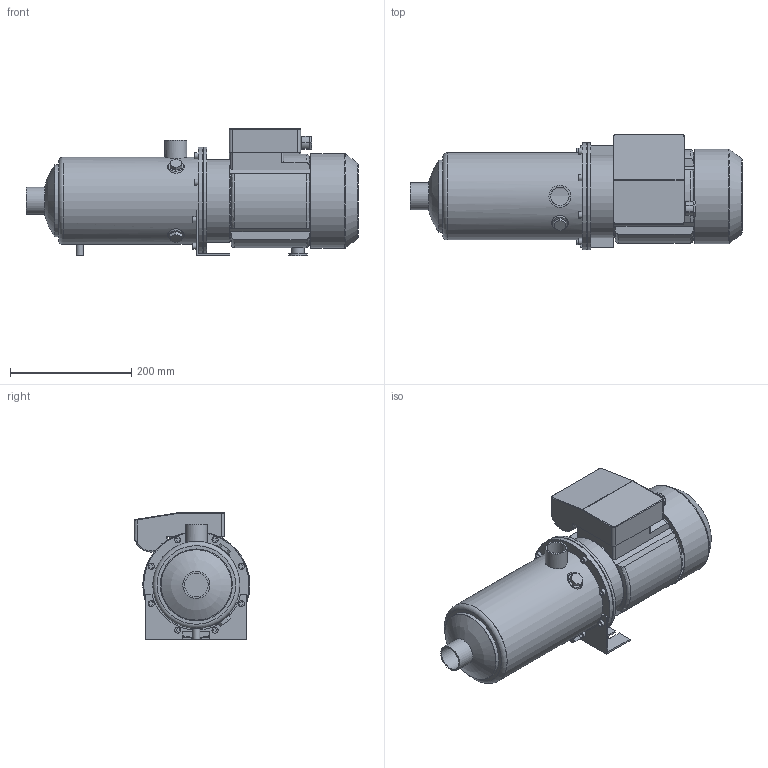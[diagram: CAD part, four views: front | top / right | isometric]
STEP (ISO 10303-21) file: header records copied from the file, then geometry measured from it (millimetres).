
FILE_DESCRIPTION(/* description */ ('Unknown'),/* implementation_level */ '2;1');
FILE_NAME(/* name */ 'MH 3 [9] M',/* time_stamp */ '2026-07-10T14:55:28+02:00',/* author */ ('Unknown'),/* organization */ ('Unknown'),/* preprocessor_version */ 'ST-DEVELOPER v20',/* originating_system */ 'Solid Edge',/* authorisation */ 'Unknown');
FILE_SCHEMA (('AUTOMOTIVE_DESIGN {1 0 10303 214 3 1 1}'));
Length unit declared in the file: millimetre
Products named in the file (10): MH 3 [9] M; Flangia motore Tonda M80; Corpo MH 3-5 [9]; Mot_Wendy_MEC80_11-15_M; carcassa MEC 80-Wendy; Copriventola MEC 80-Wendy; Basetta MEC 80 M-Wendy_new; 1; Piedino MEC 80 int.90; Staffa 3-5-9 int.90
Assembly tree (9 placements, depth 3):
  MH 3 [9] M
    Flangia motore Tonda M80
    Corpo MH 3-5 [9]
    Mot_Wendy_MEC80_11-15_M
      carcassa MEC 80-Wendy
      Copriventola MEC 80-Wendy
      Basetta MEC 80 M-Wendy_new
      1
    Piedino MEC 80 int.90
    Staffa 3-5-9 int.90
Bounding box: 547.1 x 190.75 x 209.5 mm (x, y, z)
Volume: 2677366.6 mm3; surface area: 689793.4 mm2
Topology: 8 solids, 8 shells, 289 faces, 682 edges, 450 vertices
Faces by surface type: plane 170, cylinder 80, torus 19, cone 14, bspline 4, sphere 2
Full cylindrical faces by diameter (mm): 7 x4, 10 x9, 12 x2, 15 x1, 16.5 x1, 21 x1, 30 x1, 30.291 x1, 36 x1, 38.952 x1, 44.5 x1, 116.1 x1, 118.5 x1, 125 x1, 130 x3, 134 x1, 136 x1, 141.1 x1, 143.5 x1, 153.5 x1, 155.5 x1, 173.5 x1, 174.1 x1, 176.5 x2
Entity records: 9370 total; most frequent: CARTESIAN_POINT 1793, DIRECTION 1322, ORIENTED_EDGE 1184, EDGE_CURVE 592, AXIS2_PLACEMENT_3D 490, VERTEX_POINT 419, EDGE_LOOP 399, FACE_BOUND 399
